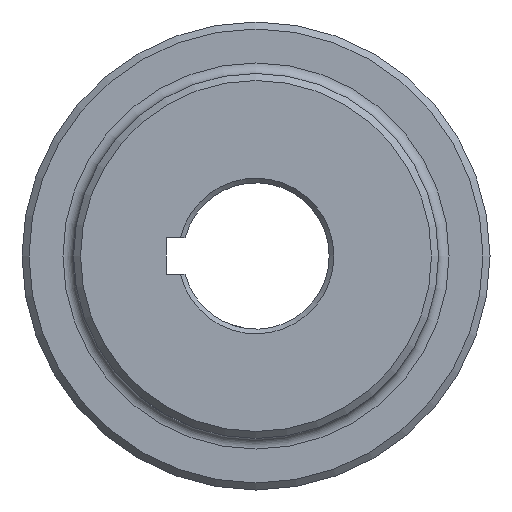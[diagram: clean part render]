
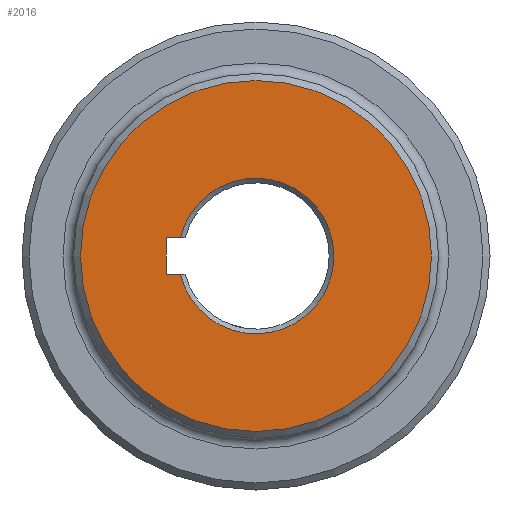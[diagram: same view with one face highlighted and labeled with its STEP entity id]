
A CAD part, left-side view. The second image highlights one B-rep face of the part: STEP entity #2016.
In plain terms, the highlighted planar face has unit normal (-1, 0, 0).
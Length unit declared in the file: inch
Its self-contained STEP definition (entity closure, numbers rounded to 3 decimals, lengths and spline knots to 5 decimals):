
#101 = EDGE_CURVE ( 'NONE', #1447, #541, #113, .T. ) ;
#113 = LINE ( 'NONE', #1947, #344 ) ;
#186 = LINE ( 'NONE', #1455, #1204 ) ;
#198 = DIRECTION ( 'NONE',  ( 1., 0., 0. ) ) ;
#206 = ORIENTED_EDGE ( 'NONE', *, *, #1015, .T. ) ;
#316 = VERTEX_POINT ( 'NONE', #1801 ) ;
#344 = VECTOR ( 'NONE', #853, 39.37008 ) ;
#405 = DIRECTION ( 'NONE',  ( 0., 0., -1. ) ) ;
#474 = DIRECTION ( 'NONE',  ( 0., 0., -1. ) ) ;
#478 = ORIENTED_EDGE ( 'NONE', *, *, #1331, .F. ) ;
#512 = EDGE_CURVE ( 'NONE', #316, #645, #814, .T. ) ;
#541 = VERTEX_POINT ( 'NONE', #2194 ) ;
#589 = CARTESIAN_POINT ( 'NONE',  ( 0., 0., -1.5 ) ) ;
#645 = VERTEX_POINT ( 'NONE', #1274 ) ;
#729 = VECTOR ( 'NONE', #1426, 39.37008 ) ;
#814 = LINE ( 'NONE', #1879, #729 ) ;
#853 = DIRECTION ( 'NONE',  ( 0., 1., 0. ) ) ;
#983 = DIRECTION ( 'NONE',  ( 0., 0., -1. ) ) ;
#1015 = EDGE_CURVE ( 'NONE', #1244, #1244, #2054, .T. ) ;
#1022 = CARTESIAN_POINT ( 'NONE',  ( 0., 0., 0. ) ) ;
#1045 = ORIENTED_EDGE ( 'NONE', *, *, #512, .F. ) ;
#1046 = PLANE ( 'NONE',  #2185 ) ;
#1048 = ORIENTED_EDGE ( 'NONE', *, *, #101, .F. ) ;
#1204 = VECTOR ( 'NONE', #474, 39.37008 ) ;
#1244 = VERTEX_POINT ( 'NONE', #589 ) ;
#1267 = CARTESIAN_POINT ( 'NONE',  ( 0., 0., 0. ) ) ;
#1274 = CARTESIAN_POINT ( 'NONE',  ( 0., 0.6467, -0.156 ) ) ;
#1331 = EDGE_CURVE ( 'NONE', #541, #316, #186, .T. ) ;
#1406 = EDGE_LOOP ( 'NONE', ( #206 ) ) ;
#1426 = DIRECTION ( 'NONE',  ( 0., -1., 0. ) ) ;
#1447 = VERTEX_POINT ( 'NONE', #1655 ) ;
#1455 = CARTESIAN_POINT ( 'NONE',  ( 0., 0.76675, -0.156 ) ) ;
#1464 = FACE_OUTER_BOUND ( 'NONE', #1406, .T. ) ;
#1580 = DIRECTION ( 'NONE',  ( 0., 0., -1. ) ) ;
#1655 = CARTESIAN_POINT ( 'NONE',  ( 0., 0.6467, 0.156 ) ) ;
#1770 = EDGE_CURVE ( 'NONE', #1447, #645, #1917, .T. ) ;
#1801 = CARTESIAN_POINT ( 'NONE',  ( 0., 0.76675, -0.156 ) ) ;
#1810 = FACE_BOUND ( 'NONE', #2130, .T. ) ;
#1879 = CARTESIAN_POINT ( 'NONE',  ( 0., 0., -0.156 ) ) ;
#1880 = AXIS2_PLACEMENT_3D ( 'NONE', #1022, #2202, #983 ) ;
#1888 = CARTESIAN_POINT ( 'NONE',  ( 0., 0., 0. ) ) ;
#1889 = AXIS2_PLACEMENT_3D ( 'NONE', #1888, #198, #1580 ) ;
#1917 = CIRCLE ( 'NONE', #1889, 0.66525 ) ;
#1947 = CARTESIAN_POINT ( 'NONE',  ( 0., 0., 0.156 ) ) ;
#2016 = ADVANCED_FACE ( 'NONE', ( #1464, #1810 ), #1046, .F. ) ;
#2047 = ORIENTED_EDGE ( 'NONE', *, *, #1770, .T. ) ;
#2054 = CIRCLE ( 'NONE', #1880, 1.5 ) ;
#2070 = DIRECTION ( 'NONE',  ( 1., 0., 0. ) ) ;
#2130 = EDGE_LOOP ( 'NONE', ( #1048, #2047, #1045, #478 ) ) ;
#2185 = AXIS2_PLACEMENT_3D ( 'NONE', #1267, #2070, #405 ) ;
#2194 = CARTESIAN_POINT ( 'NONE',  ( 0., 0.76675, 0.156 ) ) ;
#2202 = DIRECTION ( 'NONE',  ( -1., 0., 0. ) ) ;
